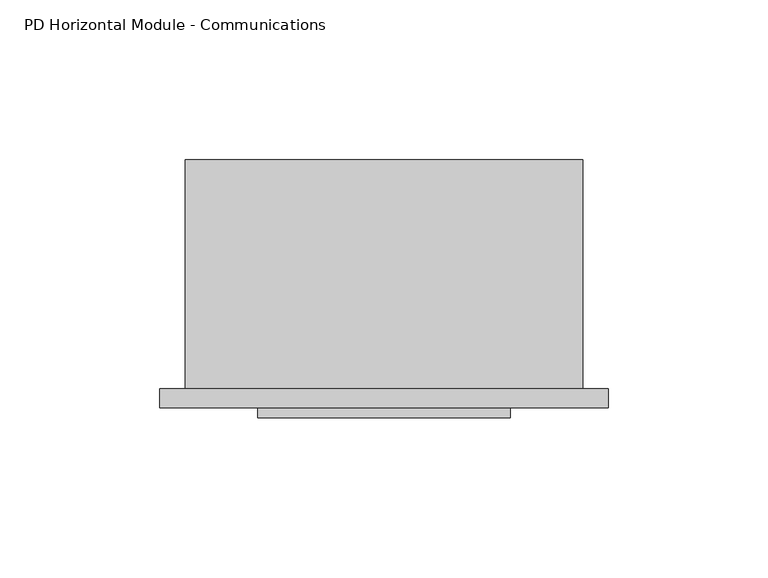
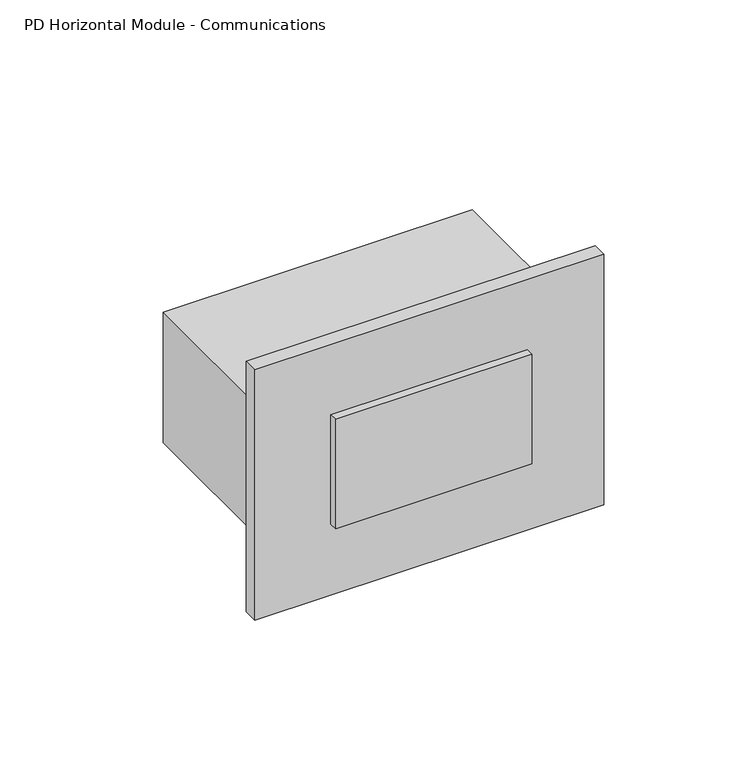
"""IFC4 building model written with IfcOpenShell, lengths in millimetres: proxy geometry, Electrical-Teknion-EPDHC_Horizontal_Power_Data_Module_Communication-R2019 : PD Horizontal Module - Communications."""

from ifc_helpers import new_model, si_unit, frame, origin, place, context, project, spatial, polyline, outline, extrude, source, transform, mapped, element, save


def pd_horizontal_module_communications_3bd114d5(model_context):
    return source(origin(), model_context, "Body", "SweptSolid", [
        extrude(outline(polyline([(22.7020438, -5.8928), (101.7468438, -5.8928), (101.7468438, -9.0678), (22.7020438, -9.0678), (22.7020438, -5.8928)])), frame((0.0, 0.0, 814.9336), z_axis=(0.0, 0.0, 1.0), x_axis=(1.0, 0.0, 0.0)), (0.0, 0.0, 1.0), 46.5328),
        extrude(outline(polyline([(-7.9502, 0.0), (132.4102, 0.0), (132.4102, -5.8928), (-7.9502, -5.8928), (-7.9502, 0.0)])), frame((0.0, 0.0, 784.9108), z_axis=(0.0, 0.0, 1.0), x_axis=(1.0, 0.0, 0.0)), (0.0, 0.0, 1.0), 106.5784),
        extrude(outline(polyline([(124.46, 0.0), (0.0, 0.0), (0.0, 71.7296), (124.46, 71.7296), (124.46, 0.0)])), frame((0.0, 0.0, 810.4251), z_axis=(0.0, 0.0, 1.0), x_axis=(1.0, 0.0, 0.0)), (0.0, 0.0, 1.0), 55.5625),
    ])


if __name__ == "__main__":
    model = new_model("IFC4")
    model_context = context("Model", 3, world=origin())
    ifc_project = project(units=[si_unit("LENGTHUNIT", "METRE", prefix="MILLI")], contexts=[model_context])
    site = spatial("IfcSite", under=ifc_project)
    building = spatial("IfcBuilding", under=site)
    placement = place(None, origin())
    pd_horizontal_module_communications_shape = pd_horizontal_module_communications_3bd114d5(model_context)
    element("IfcBuildingElementProxy", 1, Name="Electrical-Teknion-EPDHC_Horizontal_Power_Data_Module_Communication-R2019 : PD Horizontal Module - Communications", ObjectType="Electrical-Teknion-EPDHC_Horizontal_Power_Data_Module_Communication-R2019 : PD Horizontal Module - Communications", at=placement, inside=building, context=model_context, shape_type="MappedRepresentation", body=[
        mapped(pd_horizontal_module_communications_shape, transform((0.0, 0.0, 0.0), x_axis=(1.0, 0.0, 0.0), y_axis=(0.0, 1.0, 0.0), z_axis=(0.0, 0.0, 1.0))),
    ])
    save(model, "model.ifc")
